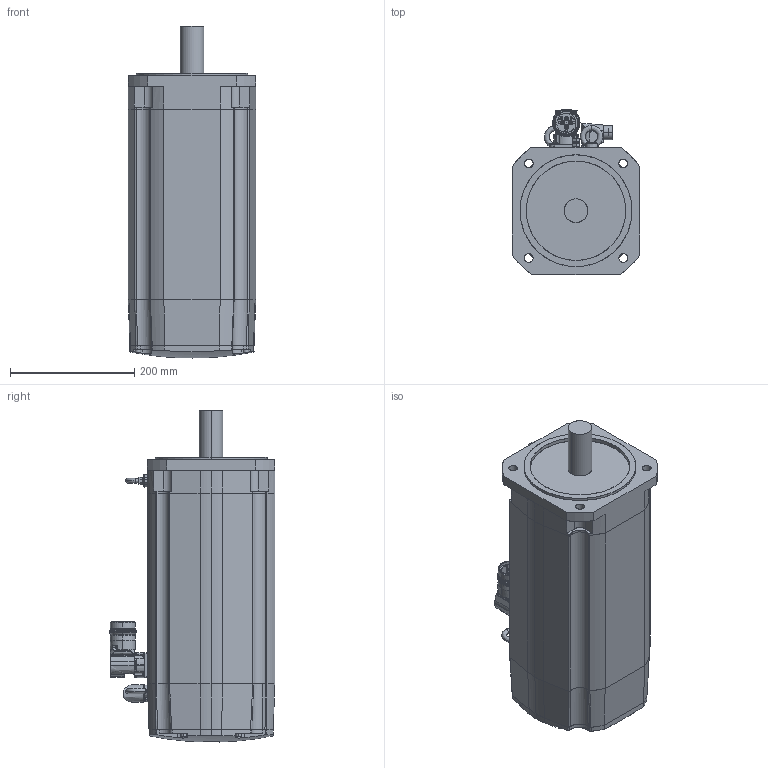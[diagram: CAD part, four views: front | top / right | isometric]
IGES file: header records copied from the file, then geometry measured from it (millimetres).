
Start section: SolidWorks IGES file using analytic representation for surfaces
Global section: file name: C:\PDM\SW-SAP\AA-IGES\SH32052x0xF2100.IGS; native system: SolidWorks 2010; preprocessor: SolidWorks 2010; author: SESA21951; date: 131129.141344; units: millimetre
Bounding box: 205 x 266.5 x 534.33 mm (x, y, z)
Surface area: 668083 mm2 (no closed solid volume)
Topology: 0 solids, 0 shells, 776 faces, 10342 edges, 10323 vertices
Faces by surface type: bspline 406, revolution 370
